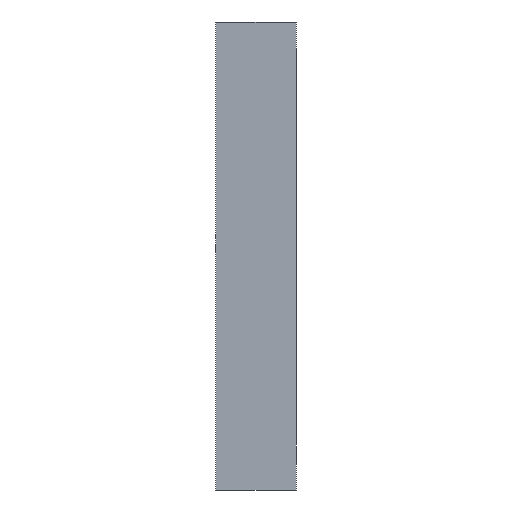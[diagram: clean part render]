
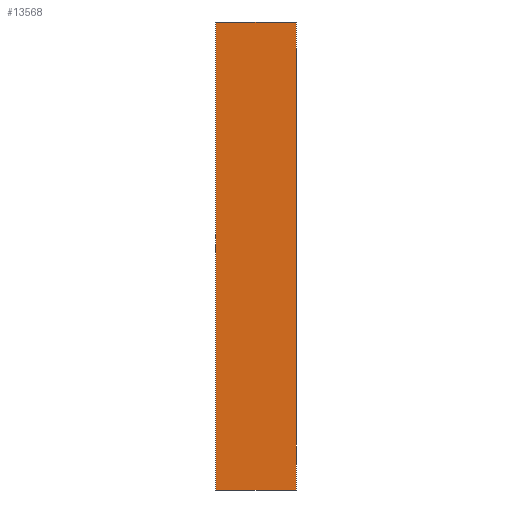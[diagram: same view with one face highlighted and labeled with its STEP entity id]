
A CAD part, left-side view. The second image highlights one B-rep face of the part: STEP entity #13568.
In plain terms, the highlighted planar face has unit normal (-1, 0, 0).
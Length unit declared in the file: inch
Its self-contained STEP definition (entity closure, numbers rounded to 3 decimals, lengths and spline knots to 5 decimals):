
#209 = ORIENTED_EDGE ( 'NONE', *, *, #7887, .T. ) ;
#451 = LINE ( 'NONE', #11778, #7625 ) ;
#1609 = VECTOR ( 'NONE', #2431, 39.37008 ) ;
#2147 = CARTESIAN_POINT ( 'NONE',  ( -11.19487, 3., -8.71237 ) ) ;
#2431 = DIRECTION ( 'NONE',  ( 0., 0., -1. ) ) ;
#3029 = AXIS2_PLACEMENT_3D ( 'NONE', #7630, #12505, #4216 ) ;
#4216 = DIRECTION ( 'NONE',  ( 0., 0., 1. ) ) ;
#4911 = VERTEX_POINT ( 'NONE', #11992 ) ;
#5226 = ORIENTED_EDGE ( 'NONE', *, *, #9050, .T. ) ;
#5263 = DIRECTION ( 'NONE',  ( 0., -1., 0. ) ) ;
#5398 = LINE ( 'NONE', #20668, #5545 ) ;
#5545 = VECTOR ( 'NONE', #15613, 39.37008 ) ;
#5878 = PLANE ( 'NONE',  #3029 ) ;
#5992 = CARTESIAN_POINT ( 'NONE',  ( -11.19487, 0., 8.71237 ) ) ;
#6565 = EDGE_LOOP ( 'NONE', ( #12746, #209, #5226, #16195 ) ) ;
#6688 = CARTESIAN_POINT ( 'NONE',  ( -11.19487, 32.37115, -8.71237 ) ) ;
#7355 = VERTEX_POINT ( 'NONE', #5992 ) ;
#7625 = VECTOR ( 'NONE', #11672, 39.37008 ) ;
#7630 = CARTESIAN_POINT ( 'NONE',  ( -11.19487, 32.37115, 8.71237 ) ) ;
#7887 = EDGE_CURVE ( 'NONE', #14025, #11645, #5398, .T. ) ;
#9050 = EDGE_CURVE ( 'NONE', #11645, #4911, #14952, .T. ) ;
#9760 = CARTESIAN_POINT ( 'NONE',  ( -11.19487, 3., 8.71237 ) ) ;
#11645 = VERTEX_POINT ( 'NONE', #2147 ) ;
#11672 = DIRECTION ( 'NONE',  ( 0., -1., 0. ) ) ;
#11778 = CARTESIAN_POINT ( 'NONE',  ( -11.19487, 32.37115, 8.71237 ) ) ;
#11992 = CARTESIAN_POINT ( 'NONE',  ( -11.19487, 0., -8.71237 ) ) ;
#12505 = DIRECTION ( 'NONE',  ( -1., 0., 0. ) ) ;
#12746 = ORIENTED_EDGE ( 'NONE', *, *, #15380, .F. ) ;
#12772 = CARTESIAN_POINT ( 'NONE',  ( -11.19487, 0., 8.71237 ) ) ;
#13568 = ADVANCED_FACE ( 'NONE', ( #20707 ), #5878, .T. ) ;
#14025 = VERTEX_POINT ( 'NONE', #9760 ) ;
#14952 = LINE ( 'NONE', #6688, #19952 ) ;
#15380 = EDGE_CURVE ( 'NONE', #14025, #7355, #451, .T. ) ;
#15613 = DIRECTION ( 'NONE',  ( 0., 0., -1. ) ) ;
#15809 = LINE ( 'NONE', #12772, #1609 ) ;
#16195 = ORIENTED_EDGE ( 'NONE', *, *, #20199, .F. ) ;
#19952 = VECTOR ( 'NONE', #5263, 39.37008 ) ;
#20199 = EDGE_CURVE ( 'NONE', #7355, #4911, #15809, .T. ) ;
#20668 = CARTESIAN_POINT ( 'NONE',  ( -11.19487, 3., 8.71237 ) ) ;
#20707 = FACE_OUTER_BOUND ( 'NONE', #6565, .T. ) ;
